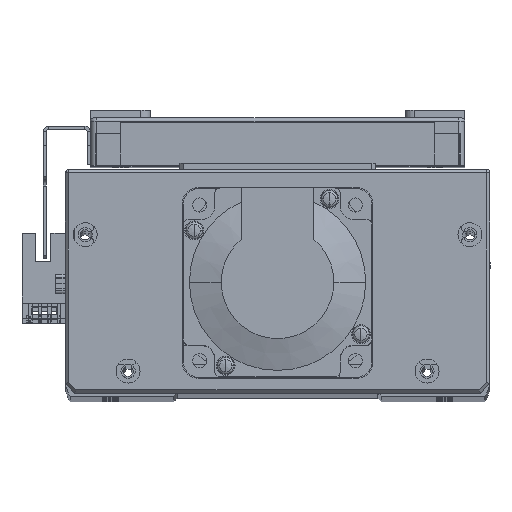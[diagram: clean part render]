
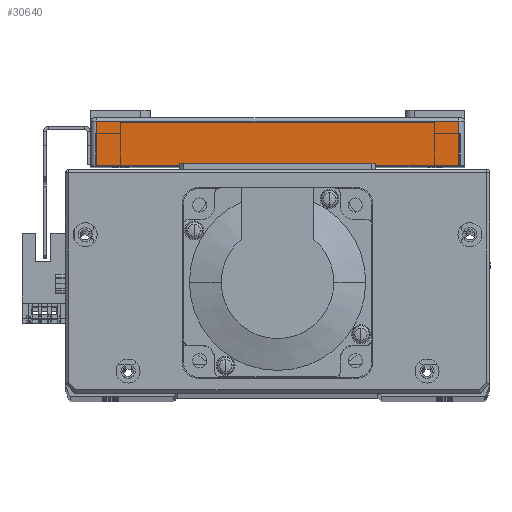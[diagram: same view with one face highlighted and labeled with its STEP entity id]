
A CAD part, top view. The second image highlights one B-rep face of the part: STEP entity #30640.
In plain terms, the highlighted planar face has unit normal (0, 0, 1) as drawn and (-1, 0, 0) by its records, which use the part's own axes.
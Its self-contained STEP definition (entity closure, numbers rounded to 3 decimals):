
#6707 = CARTESIAN_POINT ( 'NONE',  ( -95., 0., 57.5 ) ) ;
#6748 = CARTESIAN_POINT ( 'NONE',  ( -95., 14., -57.5 ) ) ;
#6753 = CARTESIAN_POINT ( 'NONE',  ( -95., 14., 57.5 ) ) ;
#6800 = CARTESIAN_POINT ( 'NONE',  ( -95., 0., -57.5 ) ) ;
#13031 = EDGE_LOOP ( 'NONE', ( #29193, #29172, #29197, #29215 ) ) ;
#14672 = VECTOR ( 'NONE', #17125, 1000. ) ;
#14717 = LINE ( 'NONE', #17154, #14672 ) ;
#14765 = LINE ( 'NONE', #17238, #14784 ) ;
#14784 = VECTOR ( 'NONE', #17265, 1000. ) ;
#14792 = VECTOR ( 'NONE', #17205, 1000. ) ;
#14837 = LINE ( 'NONE', #17198, #14792 ) ;
#14865 = LINE ( 'NONE', #17313, #14872 ) ;
#14872 = VECTOR ( 'NONE', #17293, 1000. ) ;
#17125 = DIRECTION ( 'NONE',  ( 0., 0., 1. ) ) ;
#17154 = CARTESIAN_POINT ( 'NONE',  ( -95., 0., -59.5 ) ) ;
#17198 = CARTESIAN_POINT ( 'NONE',  ( -95., 14., -57.5 ) ) ;
#17205 = DIRECTION ( 'NONE',  ( 0., 0., -1. ) ) ;
#17238 = CARTESIAN_POINT ( 'NONE',  ( -95., 15., -57.5 ) ) ;
#17265 = DIRECTION ( 'NONE',  ( 0., -1., 0. ) ) ;
#17293 = DIRECTION ( 'NONE',  ( 0., 1., 0. ) ) ;
#17313 = CARTESIAN_POINT ( 'NONE',  ( -95., 15., 57.5 ) ) ;
#21957 = EDGE_CURVE ( 'NONE', #43816, #43737, #14717, .T. ) ;
#21992 = EDGE_CURVE ( 'NONE', #43797, #43817, #14837, .T. ) ;
#22013 = EDGE_CURVE ( 'NONE', #43817, #43816, #14765, .T. ) ;
#22026 = EDGE_CURVE ( 'NONE', #43737, #43797, #14865, .T. ) ;
#23392 = AXIS2_PLACEMENT_3D ( 'NONE', #41861, #41886, #41958 ) ;
#29172 = ORIENTED_EDGE ( 'NONE', *, *, #21992, .T. ) ;
#29193 = ORIENTED_EDGE ( 'NONE', *, *, #22026, .T. ) ;
#29197 = ORIENTED_EDGE ( 'NONE', *, *, #22013, .T. ) ;
#29215 = ORIENTED_EDGE ( 'NONE', *, *, #21957, .T. ) ;
#30640 = ADVANCED_FACE ( 'NONE', ( #48143 ), #41857, .F. ) ;
#41857 = PLANE ( 'NONE',  #23392 ) ;
#41861 = CARTESIAN_POINT ( 'NONE',  ( -95., 15., -59.5 ) ) ;
#41886 = DIRECTION ( 'NONE',  ( 1., 0., 0. ) ) ;
#41958 = DIRECTION ( 'NONE',  ( 0., 0., -1. ) ) ;
#43737 = VERTEX_POINT ( 'NONE', #6707 ) ;
#43797 = VERTEX_POINT ( 'NONE', #6753 ) ;
#43816 = VERTEX_POINT ( 'NONE', #6800 ) ;
#43817 = VERTEX_POINT ( 'NONE', #6748 ) ;
#48143 = FACE_OUTER_BOUND ( 'NONE', #13031, .T. ) ;
